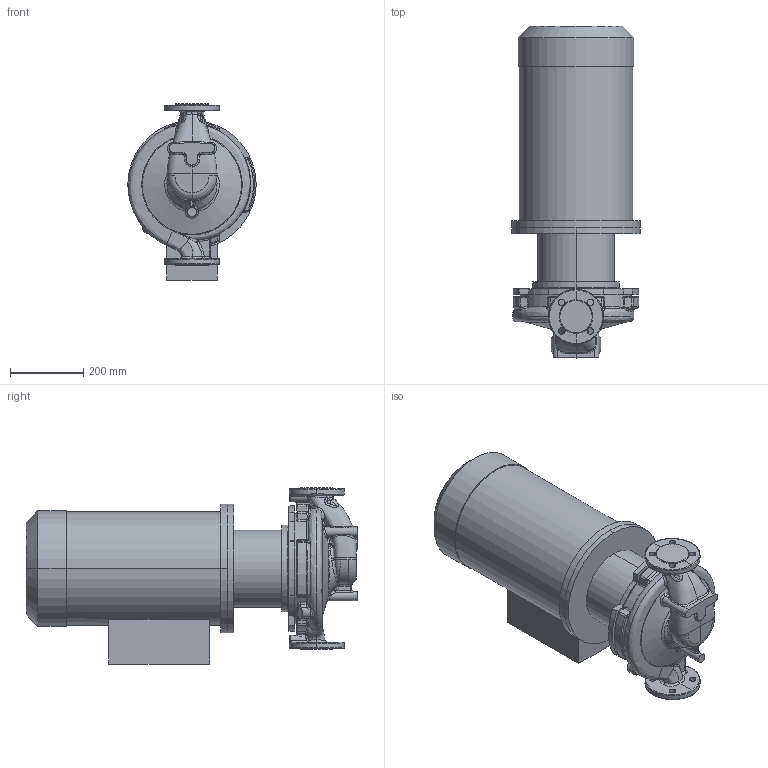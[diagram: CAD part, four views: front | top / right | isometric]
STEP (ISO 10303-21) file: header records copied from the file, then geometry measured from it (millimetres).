
FILE_DESCRIPTION (( 'STEP AP214' ), '1' );
FILE_NAME ('KRL 40-250-2-18,5.STEP', '2026-03-19T09:44:36', ( '' ), ( '' ), 'SwSTEP 2.0', 'SolidWorks 2016', '' );
FILE_SCHEMA (( 'AUTOMOTIVE_DESIGN' ));
Length unit declared in the file: millimetre
Products named in the file (1): KRL 40-250-2-18,5
Bounding box: 350 x 904.3 x 480 mm (x, y, z)
Volume: 63904954.1 mm3; surface area: 1789628.2 mm2
Topology: 4 solids, 4 shells, 661 faces, 1579 edges, 926 vertices
Faces by surface type: bspline 316, cylinder 130, plane 95, sphere 44, cone 42, torus 34
Entity records: 67064 total; most frequent: CARTESIAN_POINT 47170, ORIENTED_EDGE 3120, DIRECTION 1982, EDGE_CURVE 1560, VERTEX_POINT 926, AXIS2_PLACEMENT_3D 870, EDGE_LOOP 696, UNCERTAINTY_MEASURE_WITH_UNIT 667
